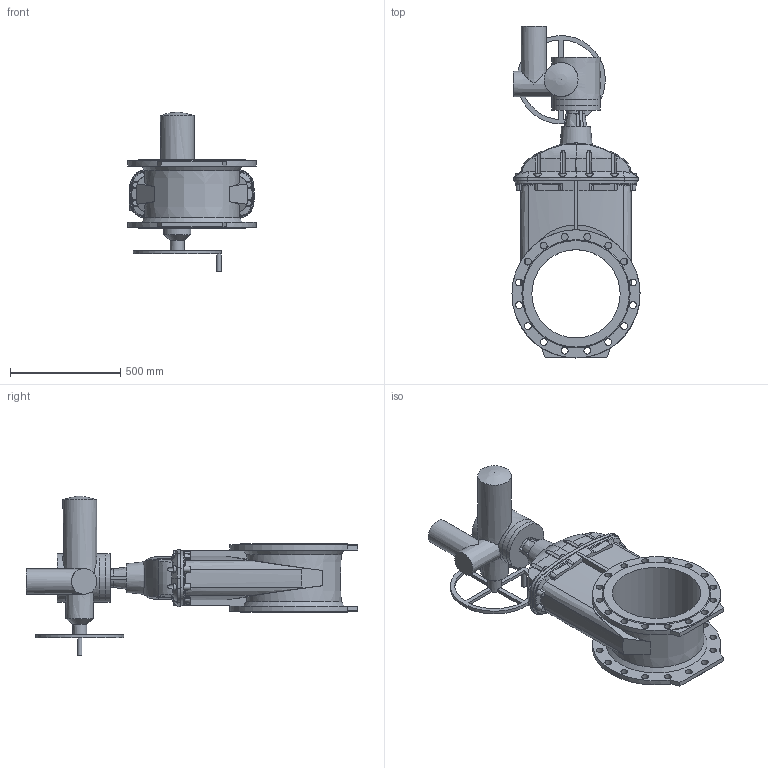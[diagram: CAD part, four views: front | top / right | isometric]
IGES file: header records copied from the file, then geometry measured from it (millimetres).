
Start section: SolidWorks IGES file using analytic representation for surfaces
Global section: file name: \\avksan2\techshare\PBM outline export from Enovia\O_15_40_DN400_X1X_SA14.6_AA0.igs; native system: SolidWorks 2012; preprocessor: SolidWorks 2012; author: pbm; date: 170320.131624; units: inch
Bounding box: 580 x 1502.5 x 721 mm (x, y, z)
Surface area: 2838469.2 mm2 (no closed solid volume)
Topology: 0 solids, 0 shells, 375 faces, 2183 edges, 2097 vertices
Faces by surface type: revolution 226, bspline 149
